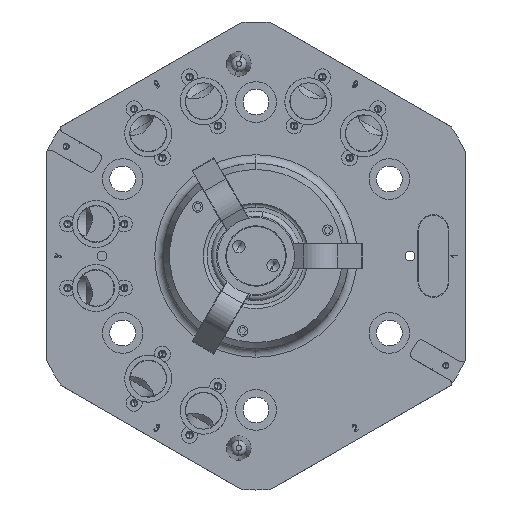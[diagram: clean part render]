
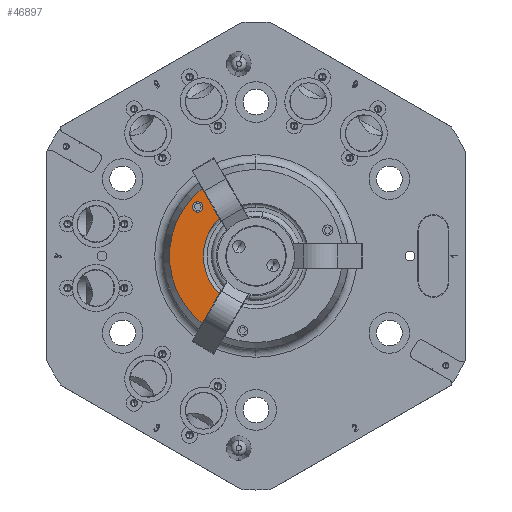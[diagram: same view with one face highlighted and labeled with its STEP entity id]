
A CAD part, front view. The second image highlights one B-rep face of the part: STEP entity #46897.
In plain terms, the highlighted planar face has unit normal (0, -1, 0).
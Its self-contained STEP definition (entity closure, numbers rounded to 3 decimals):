
#1061 = CARTESIAN_POINT ( 'NONE',  ( -23.624, -44.5, 22.018 ) ) ;
#3767 = VECTOR ( 'NONE', #19287, 1000. ) ;
#4270 = CARTESIAN_POINT ( 'NONE',  ( 0., -44.5, 0. ) ) ;
#4306 = CIRCLE ( 'NONE', #45641, 2.1 ) ;
#5024 = CARTESIAN_POINT ( 'NONE',  ( 0., -44.5, 0. ) ) ;
#5028 = ORIENTED_EDGE ( 'NONE', *, *, #42044, .F. ) ;
#5143 = CARTESIAN_POINT ( 'NONE',  ( -23.624, -44.5, 17.818 ) ) ;
#8014 = EDGE_CURVE ( 'NONE', #21305, #38927, #57899, .T. ) ;
#12097 = ORIENTED_EDGE ( 'NONE', *, *, #47274, .F. ) ;
#13225 = CARTESIAN_POINT ( 'NONE',  ( -21.901, -44.5, -27.434 ) ) ;
#14025 = CARTESIAN_POINT ( 'NONE',  ( -14.902, -44.5, 15.31 ) ) ;
#14167 = AXIS2_PLACEMENT_3D ( 'NONE', #5024, #41208, #51173 ) ;
#15489 = DIRECTION ( 'NONE',  ( 0., 0., -1. ) ) ;
#18264 = DIRECTION ( 'NONE',  ( 0., -1., 0. ) ) ;
#19287 = DIRECTION ( 'NONE',  ( 0.5, 0., -0.866 ) ) ;
#21305 = VERTEX_POINT ( 'NONE', #14025 ) ;
#21313 = DIRECTION ( 'NONE',  ( 0., -1., 0. ) ) ;
#22538 = AXIS2_PLACEMENT_3D ( 'NONE', #44188, #55455, #55125 ) ;
#23776 = ORIENTED_EDGE ( 'NONE', *, *, #36640, .F. ) ;
#25025 = AXIS2_PLACEMENT_3D ( 'NONE', #4270, #60383, #61054 ) ;
#28608 = LINE ( 'NONE', #32284, #43837 ) ;
#30069 = PLANE ( 'NONE',  #38497 ) ;
#31519 = ORIENTED_EDGE ( 'NONE', *, *, #47497, .T. ) ;
#32284 = CARTESIAN_POINT ( 'NONE',  ( -14.902, -44.5, -15.31 ) ) ;
#33270 = CIRCLE ( 'NONE', #14167, 35.104 ) ;
#34566 = CARTESIAN_POINT ( 'NONE',  ( -14.902, -44.5, 15.31 ) ) ;
#35636 = CARTESIAN_POINT ( 'NONE',  ( -23.624, -44.5, 19.918 ) ) ;
#35677 = EDGE_LOOP ( 'NONE', ( #5028, #31519, #12097, #36501 ) ) ;
#36029 = VERTEX_POINT ( 'NONE', #1061 ) ;
#36501 = ORIENTED_EDGE ( 'NONE', *, *, #8014, .F. ) ;
#36640 = EDGE_CURVE ( 'NONE', #36029, #49708, #62828, .T. ) ;
#36706 = CARTESIAN_POINT ( 'NONE',  ( -14.902, -44.5, -15.31 ) ) ;
#38497 = AXIS2_PLACEMENT_3D ( 'NONE', #53809, #18264, #15489 ) ;
#38927 = VERTEX_POINT ( 'NONE', #36706 ) ;
#41208 = DIRECTION ( 'NONE',  ( 0., -1., 0. ) ) ;
#41661 = ORIENTED_EDGE ( 'NONE', *, *, #59270, .F. ) ;
#42044 = EDGE_CURVE ( 'NONE', #54123, #21305, #65074, .T. ) ;
#43837 = VECTOR ( 'NONE', #52577, 1000. ) ;
#44188 = CARTESIAN_POINT ( 'NONE',  ( -23.624, -44.5, 19.918 ) ) ;
#45641 = AXIS2_PLACEMENT_3D ( 'NONE', #35636, #21313, #61828 ) ;
#46549 = CARTESIAN_POINT ( 'NONE',  ( -21.901, -44.5, 27.434 ) ) ;
#46897 = ADVANCED_FACE ( 'NONE', ( #62099, #57127 ), #30069, .T. ) ;
#47274 = EDGE_CURVE ( 'NONE', #38927, #65572, #28608, .T. ) ;
#47497 = EDGE_CURVE ( 'NONE', #54123, #65572, #33270, .T. ) ;
#49708 = VERTEX_POINT ( 'NONE', #5143 ) ;
#51173 = DIRECTION ( 'NONE',  ( 0., 0., -1. ) ) ;
#51887 = EDGE_LOOP ( 'NONE', ( #41661, #23776 ) ) ;
#52577 = DIRECTION ( 'NONE',  ( -0.5, 0., -0.866 ) ) ;
#53809 = CARTESIAN_POINT ( 'NONE',  ( 0., -44.5, 0. ) ) ;
#54123 = VERTEX_POINT ( 'NONE', #46549 ) ;
#55125 = DIRECTION ( 'NONE',  ( 0., 0., -1. ) ) ;
#55455 = DIRECTION ( 'NONE',  ( 0., -1., 0. ) ) ;
#57127 = FACE_OUTER_BOUND ( 'NONE', #35677, .T. ) ;
#57899 = CIRCLE ( 'NONE', #25025, 21.365 ) ;
#59270 = EDGE_CURVE ( 'NONE', #49708, #36029, #4306, .T. ) ;
#60383 = DIRECTION ( 'NONE',  ( 0., -1., 0. ) ) ;
#61054 = DIRECTION ( 'NONE',  ( 0., 0., -1. ) ) ;
#61828 = DIRECTION ( 'NONE',  ( 0., 0., -1. ) ) ;
#62099 = FACE_BOUND ( 'NONE', #51887, .T. ) ;
#62828 = CIRCLE ( 'NONE', #22538, 2.1 ) ;
#65074 = LINE ( 'NONE', #34566, #3767 ) ;
#65572 = VERTEX_POINT ( 'NONE', #13225 ) ;
